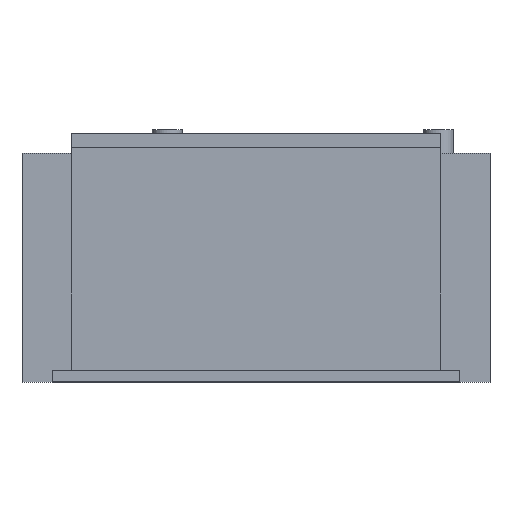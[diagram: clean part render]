
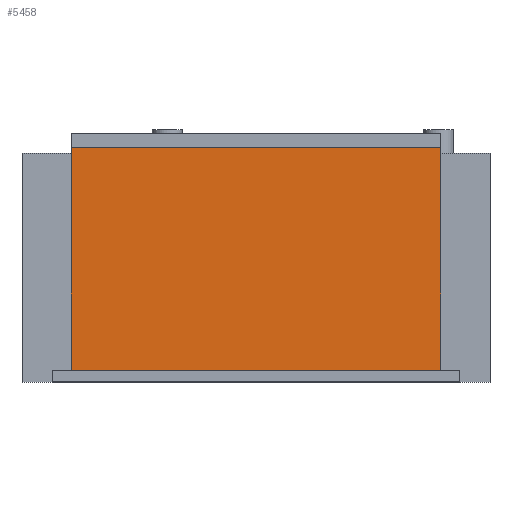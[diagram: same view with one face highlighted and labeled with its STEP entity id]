
A CAD part, top view. The second image highlights one B-rep face of the part: STEP entity #5458.
In plain terms, the highlighted planar face has unit normal (0, 0, 1).
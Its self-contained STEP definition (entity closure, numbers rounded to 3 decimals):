
#2785 = PLANE('',#2786);
#2786 = AXIS2_PLACEMENT_3D('',#2787,#2788,#2789);
#2787 = CARTESIAN_POINT('',(-43.5,2.5,5.));
#2788 = DIRECTION('',(-0.,1.,0.));
#2789 = DIRECTION('',(0.,0.,1.));
#2813 = PLANE('',#2814);
#2814 = AXIS2_PLACEMENT_3D('',#2815,#2816,#2817);
#2815 = CARTESIAN_POINT('',(39.5,0.,5.));
#2816 = DIRECTION('',(1.,0.,-0.));
#2817 = DIRECTION('',(0.,0.,1.));
#2841 = PLANE('',#2842);
#2842 = AXIS2_PLACEMENT_3D('',#2843,#2844,#2845);
#2843 = CARTESIAN_POINT('',(-39.5,50.,5.));
#2844 = DIRECTION('',(-0.,1.,0.));
#2845 = DIRECTION('',(0.,0.,1.));
#2869 = PLANE('',#2870);
#2870 = AXIS2_PLACEMENT_3D('',#2871,#2872,#2873);
#2871 = CARTESIAN_POINT('',(-39.5,0.,5.));
#2872 = DIRECTION('',(1.,0.,-0.));
#2873 = DIRECTION('',(0.,0.,1.));
#3649 = VERTEX_POINT('',#3650);
#3650 = CARTESIAN_POINT('',(39.5,2.5,69.5));
#3671 = EDGE_CURVE('',#3649,#3672,#3674,.T.);
#3672 = VERTEX_POINT('',#3673);
#3673 = CARTESIAN_POINT('',(-39.5,2.5,69.5));
#3674 = SURFACE_CURVE('',#3675,(#3679,#3686),.PCURVE_S1.);
#3675 = LINE('',#3676,#3677);
#3676 = CARTESIAN_POINT('',(-41.5,2.5,69.5));
#3677 = VECTOR('',#3678,1.);
#3678 = DIRECTION('',(-1.,-0.,0.));
#3679 = PCURVE('',#2785,#3680);
#3680 = DEFINITIONAL_REPRESENTATION('',(#3681),#3685);
#3681 = LINE('',#3682,#3683);
#3682 = CARTESIAN_POINT('',(64.5,2.));
#3683 = VECTOR('',#3684,1.);
#3684 = DIRECTION('',(0.,-1.));
#3685 = ( GEOMETRIC_REPRESENTATION_CONTEXT(2) 
PARAMETRIC_REPRESENTATION_CONTEXT() REPRESENTATION_CONTEXT('2D SPACE',''
  ) );
#3686 = PCURVE('',#3687,#3692);
#3687 = PLANE('',#3688);
#3688 = AXIS2_PLACEMENT_3D('',#3689,#3690,#3691);
#3689 = CARTESIAN_POINT('',(-39.5,0.,69.5));
#3690 = DIRECTION('',(0.,0.,1.));
#3691 = DIRECTION('',(1.,0.,-0.));
#3692 = DEFINITIONAL_REPRESENTATION('',(#3693),#3697);
#3693 = LINE('',#3694,#3695);
#3694 = CARTESIAN_POINT('',(-2.,2.5));
#3695 = VECTOR('',#3696,1.);
#3696 = DIRECTION('',(-1.,0.));
#3697 = ( GEOMETRIC_REPRESENTATION_CONTEXT(2) 
PARAMETRIC_REPRESENTATION_CONTEXT() REPRESENTATION_CONTEXT('2D SPACE',''
  ) );
#3723 = EDGE_CURVE('',#3649,#3724,#3726,.T.);
#3724 = VERTEX_POINT('',#3725);
#3725 = CARTESIAN_POINT('',(39.5,50.,69.5));
#3726 = SURFACE_CURVE('',#3727,(#3731,#3738),.PCURVE_S1.);
#3727 = LINE('',#3728,#3729);
#3728 = CARTESIAN_POINT('',(39.5,0.,69.5));
#3729 = VECTOR('',#3730,1.);
#3730 = DIRECTION('',(-0.,1.,0.));
#3731 = PCURVE('',#2813,#3732);
#3732 = DEFINITIONAL_REPRESENTATION('',(#3733),#3737);
#3733 = LINE('',#3734,#3735);
#3734 = CARTESIAN_POINT('',(64.5,0.));
#3735 = VECTOR('',#3736,1.);
#3736 = DIRECTION('',(0.,-1.));
#3737 = ( GEOMETRIC_REPRESENTATION_CONTEXT(2) 
PARAMETRIC_REPRESENTATION_CONTEXT() REPRESENTATION_CONTEXT('2D SPACE',''
  ) );
#3738 = PCURVE('',#3687,#3739);
#3739 = DEFINITIONAL_REPRESENTATION('',(#3740),#3744);
#3740 = LINE('',#3741,#3742);
#3741 = CARTESIAN_POINT('',(79.,0.));
#3742 = VECTOR('',#3743,1.);
#3743 = DIRECTION('',(0.,1.));
#3744 = ( GEOMETRIC_REPRESENTATION_CONTEXT(2) 
PARAMETRIC_REPRESENTATION_CONTEXT() REPRESENTATION_CONTEXT('2D SPACE',''
  ) );
#3772 = EDGE_CURVE('',#3672,#3773,#3775,.T.);
#3773 = VERTEX_POINT('',#3774);
#3774 = CARTESIAN_POINT('',(-39.5,50.,69.5));
#3775 = SURFACE_CURVE('',#3776,(#3780,#3787),.PCURVE_S1.);
#3776 = LINE('',#3777,#3778);
#3777 = CARTESIAN_POINT('',(-39.5,0.,69.5));
#3778 = VECTOR('',#3779,1.);
#3779 = DIRECTION('',(-0.,1.,0.));
#3780 = PCURVE('',#2869,#3781);
#3781 = DEFINITIONAL_REPRESENTATION('',(#3782),#3786);
#3782 = LINE('',#3783,#3784);
#3783 = CARTESIAN_POINT('',(64.5,0.));
#3784 = VECTOR('',#3785,1.);
#3785 = DIRECTION('',(0.,-1.));
#3786 = ( GEOMETRIC_REPRESENTATION_CONTEXT(2) 
PARAMETRIC_REPRESENTATION_CONTEXT() REPRESENTATION_CONTEXT('2D SPACE',''
  ) );
#3787 = PCURVE('',#3687,#3788);
#3788 = DEFINITIONAL_REPRESENTATION('',(#3789),#3793);
#3789 = LINE('',#3790,#3791);
#3790 = CARTESIAN_POINT('',(0.,0.));
#3791 = VECTOR('',#3792,1.);
#3792 = DIRECTION('',(0.,1.));
#3793 = ( GEOMETRIC_REPRESENTATION_CONTEXT(2) 
PARAMETRIC_REPRESENTATION_CONTEXT() REPRESENTATION_CONTEXT('2D SPACE',''
  ) );
#3823 = EDGE_CURVE('',#3773,#3724,#3824,.T.);
#3824 = SURFACE_CURVE('',#3825,(#3829,#3836),.PCURVE_S1.);
#3825 = LINE('',#3826,#3827);
#3826 = CARTESIAN_POINT('',(-39.5,50.,69.5));
#3827 = VECTOR('',#3828,1.);
#3828 = DIRECTION('',(1.,0.,-0.));
#3829 = PCURVE('',#2841,#3830);
#3830 = DEFINITIONAL_REPRESENTATION('',(#3831),#3835);
#3831 = LINE('',#3832,#3833);
#3832 = CARTESIAN_POINT('',(64.5,0.));
#3833 = VECTOR('',#3834,1.);
#3834 = DIRECTION('',(0.,1.));
#3835 = ( GEOMETRIC_REPRESENTATION_CONTEXT(2) 
PARAMETRIC_REPRESENTATION_CONTEXT() REPRESENTATION_CONTEXT('2D SPACE',''
  ) );
#3836 = PCURVE('',#3687,#3837);
#3837 = DEFINITIONAL_REPRESENTATION('',(#3838),#3842);
#3838 = LINE('',#3839,#3840);
#3839 = CARTESIAN_POINT('',(0.,50.));
#3840 = VECTOR('',#3841,1.);
#3841 = DIRECTION('',(1.,0.));
#3842 = ( GEOMETRIC_REPRESENTATION_CONTEXT(2) 
PARAMETRIC_REPRESENTATION_CONTEXT() REPRESENTATION_CONTEXT('2D SPACE',''
  ) );
#5458 = ADVANCED_FACE('',(#5459),#3687,.T.);
#5459 = FACE_BOUND('',#5460,.T.);
#5460 = EDGE_LOOP('',(#5461,#5462,#5463,#5464));
#5461 = ORIENTED_EDGE('',*,*,#3772,.F.);
#5462 = ORIENTED_EDGE('',*,*,#3671,.F.);
#5463 = ORIENTED_EDGE('',*,*,#3723,.T.);
#5464 = ORIENTED_EDGE('',*,*,#3823,.F.);
